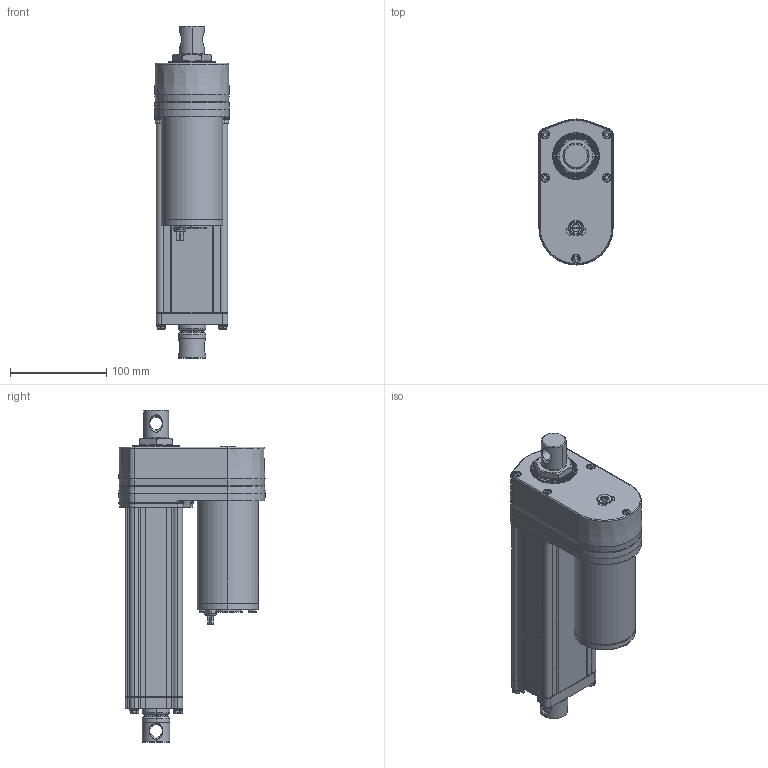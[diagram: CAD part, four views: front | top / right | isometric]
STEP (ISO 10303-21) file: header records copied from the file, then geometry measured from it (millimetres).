
FILE_DESCRIPTION (( 'STEP AP203' ), '1' );
FILE_NAME ('ID12-B-MD.STEP', '2022-11-03T06:41:04', ( '' ), ( '' ), 'SwSTEP 2.0', 'SolidWorks 2020', '' );
FILE_SCHEMA (( 'CONFIG_CONTROL_DESIGN' ));
Length unit declared in the file: millimetre
Products named in the file (3): ID12-B-2; ID12-B-1; ID12-B-MD
Assembly tree (2 placements, depth 2):
  ID12-B-MD
    ID12-B-1
    ID12-B-2
Bounding box: 77.15 x 151.65 x 344.5 mm (x, y, z)
Volume: 1760032.9 mm3; surface area: 176484.2 mm2
Topology: 2 solids, 3 shells, 1155 faces, 3043 edges, 1922 vertices
Faces by surface type: plane 707, cylinder 291, torus 64, cone 63, bspline 30
Entity records: 36752 total; most frequent: CARTESIAN_POINT 9643, ORIENTED_EDGE 6038, DIRECTION 5283, EDGE_CURVE 3019, VERTEX_POINT 1922, AXIS2_PLACEMENT_3D 1860, LINE 1563, VECTOR 1563
